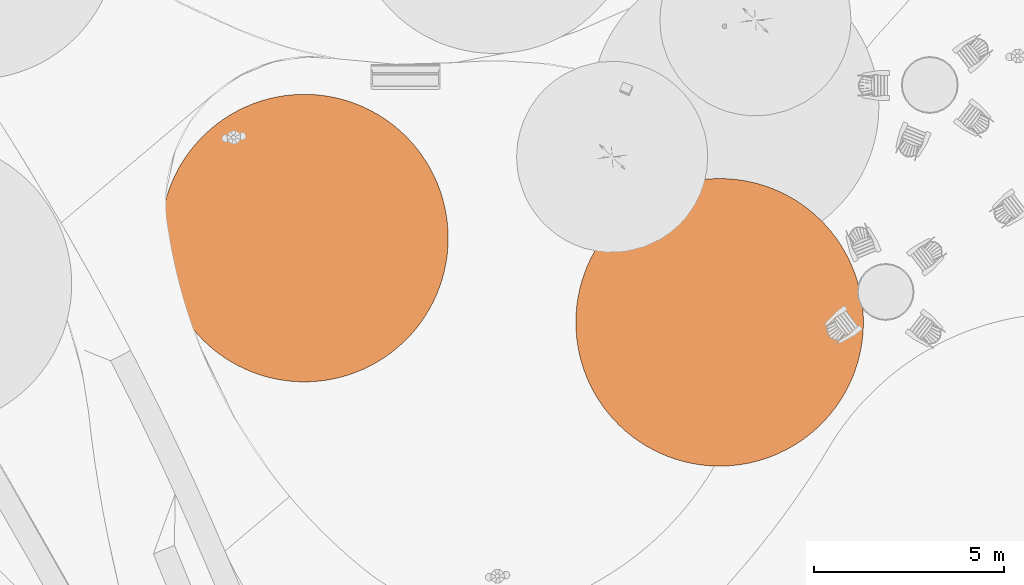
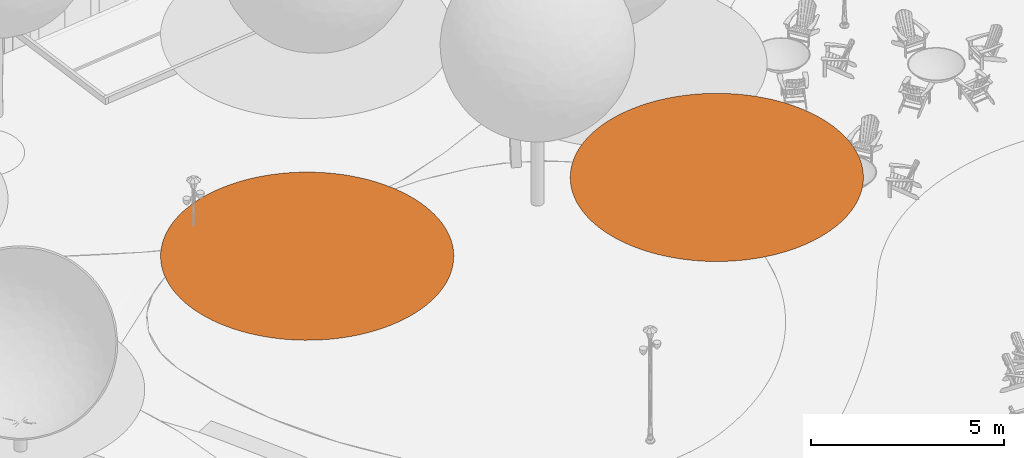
# One storey, part 70 of 75: 2 proxies.
"""IFC2X3 building model written with IfcOpenShell, lengths in metres."""

from ifc_helpers import new_model, entity, si_unit, converted_unit, derived_unit, direction, frame, origin, place, context, subcontext, project, spatial, face_set, surface_model, source, transform, mapped, material, type_object, type_shapes, element, save


model = new_model("IFC2X3")

# Units and contexts
model_context = context("Model", 3, precision=1e-05, world=origin(), true_north=direction((6.123031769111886e-17, 1.0)))
body_context = subcontext(model_context, "Body", "Model", "MODEL_VIEW")
ifc_project = project(units=[si_unit("LENGTHUNIT", "METRE"), si_unit("AREAUNIT", "SQUARE_METRE"), si_unit("VOLUMEUNIT", "CUBIC_METRE"), converted_unit("PLANEANGLEUNIT", "DEGREE", entity("IfcRatioMeasure", 0.017453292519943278), si_unit("PLANEANGLEUNIT", "RADIAN"), dimensions=[0, 0, 0, 0, 0, 0, 0]), si_unit("MASSUNIT", "GRAM", prefix="KILO"), derived_unit("MASSDENSITYUNIT", [(si_unit("MASSUNIT", "GRAM", prefix="KILO"), 1), (si_unit("LENGTHUNIT", "METRE"), -3)]), derived_unit("IONCONCENTRATIONUNIT", [(si_unit("MASSUNIT", "GRAM", prefix="KILO"), 1), (si_unit("LENGTHUNIT", "METRE"), -3)]), derived_unit("MOMENTOFINERTIAUNIT", [(si_unit("LENGTHUNIT", "METRE"), 4)]), si_unit("TIMEUNIT", "SECOND"), si_unit("FREQUENCYUNIT", "HERTZ"), si_unit("THERMODYNAMICTEMPERATUREUNIT", "DEGREE_CELSIUS"), derived_unit("THERMALTRANSMITTANCEUNIT", [(si_unit("MASSUNIT", "GRAM", prefix="KILO"), 1), (si_unit("THERMODYNAMICTEMPERATUREUNIT", "KELVIN"), -1), (si_unit("TIMEUNIT", "SECOND"), -3)]), derived_unit("THERMALCONDUCTANCEUNIT", [(si_unit("MASSUNIT", "GRAM", prefix="KILO"), 1), (si_unit("THERMODYNAMICTEMPERATUREUNIT", "KELVIN"), -1), (si_unit("TIMEUNIT", "SECOND"), -3), (si_unit("LENGTHUNIT", "METRE"), 1)]), derived_unit("VOLUMETRICFLOWRATEUNIT", [(si_unit("LENGTHUNIT", "METRE"), 3), (si_unit("TIMEUNIT", "SECOND"), -1)]), derived_unit("MASSFLOWRATEUNIT", [(si_unit("MASSUNIT", "GRAM", prefix="KILO"), 1), (si_unit("TIMEUNIT", "SECOND"), -1)]), derived_unit("ROTATIONALFREQUENCYUNIT", [(si_unit("TIMEUNIT", "SECOND"), -1)]), si_unit("ELECTRICCURRENTUNIT", "AMPERE"), si_unit("ELECTRICVOLTAGEUNIT", "VOLT"), si_unit("POWERUNIT", "WATT"), si_unit("FORCEUNIT", "NEWTON", prefix="KILO"), si_unit("ILLUMINANCEUNIT", "LUX"), si_unit("LUMINOUSFLUXUNIT", "LUMEN"), si_unit("LUMINOUSINTENSITYUNIT", "CANDELA"), derived_unit("USERDEFINED", [(si_unit("MASSUNIT", "GRAM", prefix="KILO"), -1), (si_unit("LENGTHUNIT", "METRE"), -2), (si_unit("TIMEUNIT", "SECOND"), 3), (si_unit("LUMINOUSFLUXUNIT", "LUMEN"), 1)]), derived_unit("USERDEFINED", [(si_unit("MASSUNIT", "GRAM", prefix="KILO"), 1), (si_unit("TIMEUNIT", "SECOND"), -3), (si_unit("LENGTHUNIT", "METRE"), 3), (si_unit("ELECTRICCURRENTUNIT", "AMPERE"), -2)]), derived_unit("SOUNDPOWERUNIT", [(si_unit("MASSUNIT", "GRAM", prefix="KILO"), 1), (si_unit("TIMEUNIT", "SECOND"), -3), (si_unit("LENGTHUNIT", "METRE"), 2)]), derived_unit("SOUNDPRESSUREUNIT", [(si_unit("MASSUNIT", "GRAM", prefix="KILO"), 1), (si_unit("LENGTHUNIT", "METRE"), -1), (si_unit("TIMEUNIT", "SECOND"), -2)]), derived_unit("LINEARVELOCITYUNIT", [(si_unit("LENGTHUNIT", "METRE"), 1), (si_unit("TIMEUNIT", "SECOND"), -1)]), si_unit("PRESSUREUNIT", "PASCAL"), derived_unit("USERDEFINED", [(si_unit("MASSUNIT", "GRAM", prefix="KILO"), 1), (si_unit("LENGTHUNIT", "METRE"), -2), (si_unit("TIMEUNIT", "SECOND"), -2)]), derived_unit("LINEARFORCEUNIT", [(si_unit("MASSUNIT", "GRAM", prefix="KILO"), 1), (si_unit("TIMEUNIT", "SECOND"), -2)]), derived_unit("PLANARFORCEUNIT", [(si_unit("MASSUNIT", "GRAM", prefix="KILO"), 1), (si_unit("LENGTHUNIT", "METRE"), -1), (si_unit("TIMEUNIT", "SECOND"), -2)]), derived_unit("SPECIFICHEATCAPACITYUNIT", [(si_unit("THERMODYNAMICTEMPERATUREUNIT", "KELVIN"), -1), (si_unit("LENGTHUNIT", "METRE"), 2), (si_unit("TIMEUNIT", "SECOND"), -2)]), derived_unit("HEATINGVALUEUNIT", [(si_unit("LENGTHUNIT", "METRE"), 2), (si_unit("TIMEUNIT", "SECOND"), -2)]), derived_unit("VAPORPERMEABILITYUNIT", [(si_unit("LENGTHUNIT", "METRE"), -1), (si_unit("TIMEUNIT", "SECOND"), 1)]), derived_unit("DYNAMICVISCOSITYUNIT", [(si_unit("MASSUNIT", "GRAM", prefix="KILO"), 1), (si_unit("TIMEUNIT", "SECOND"), -1), (si_unit("LENGTHUNIT", "METRE"), -1)]), derived_unit("THERMALEXPANSIONCOEFFICIENTUNIT", [(si_unit("THERMODYNAMICTEMPERATUREUNIT", "KELVIN"), -1)]), derived_unit("MODULUSOFELASTICITYUNIT", [(si_unit("MASSUNIT", "GRAM", prefix="KILO"), 1), (si_unit("LENGTHUNIT", "METRE"), -1), (si_unit("TIMEUNIT", "SECOND"), -2)]), derived_unit("ISOTHERMALMOISTURECAPACITYUNIT", [(si_unit("LENGTHUNIT", "METRE"), 3), (si_unit("MASSUNIT", "GRAM", prefix="KILO"), -1)]), derived_unit("MOISTUREDIFFUSIVITYUNIT", [(si_unit("TIMEUNIT", "SECOND"), -1), (si_unit("LENGTHUNIT", "METRE"), 2)])], contexts=[model_context])

# Site, building, storey
site_placement = place(None, origin())
site = spatial("IfcSite", under=ifc_project, at=site_placement, Name="Default", CompositionType="ELEMENT")
building_placement = place(site_placement, origin())
building = spatial("IfcBuilding", under=site, at=building_placement, Name="Projeto", CompositionType="ELEMENT")
storey_placement = place(building_placement, origin())
storey = spatial("IfcBuildingStorey", under=building, at=storey_placement, Name="Nível 1", CompositionType="ELEMENT", Elevation=0.0)

# Proxies
ifc_material = material(Name="<Unnamed>")
building_element_proxy_type = type_object("IfcBuildingElementProxyType", Name="Arvore simplificada:Arvore simplificada", PredefinedType="NOTDEFINED", material=ifc_material)
shared_shape = source(origin(), body_context, "Body", "SurfaceModel", [
    surface_model("IfcFaceBasedSurfaceModel", [(-3.9544974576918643, -0.18317979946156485, 0.0), (-3.9483138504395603, -0.3996342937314, 0.0), (-3.929783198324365, -0.6153827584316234, 0.0), (-3.8989659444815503, -0.8297214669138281, 0.0), (-3.855962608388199, -1.0419512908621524, 0.0), (-3.8009134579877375, -1.2513799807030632, 0.0), (-3.733998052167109, -1.4573244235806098, 0.0), (-3.655434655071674, -1.6591128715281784, 0.0), (-3.5654795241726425, -1.8560871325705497, 0.0), (-3.4644260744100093, -2.0476047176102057, 0.0), (-3.3526039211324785, -2.2330409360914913, 0.0), (-3.2303778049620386, -2.411790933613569, 0.0), (-3.098146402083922, -2.583271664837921, 0.0), (-2.9563410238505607, -2.7469237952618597, 0.0), (-2.8054242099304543, -2.9022135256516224, 0.0), (-2.6458882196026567, -3.048634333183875, 0.0), (-2.4782534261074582, -3.1857086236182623, 0.0), (-2.3030666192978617, -3.3129892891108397, 0.0), (-2.12089922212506, -3.430061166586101, 0.0), (-1.93234542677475, -3.5365423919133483, 0.0), (-1.7380202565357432, -3.632085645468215, 0.0), (-1.5385575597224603, -3.7163792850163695, 0.0), (-1.3346079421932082, -3.789148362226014, 0.0), (-1.1268366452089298, -3.8501555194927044, 0.0), (-0.9159213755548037, -3.8992017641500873, 0.0), (-0.7025500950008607, -3.9361271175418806, 0.0), (-0.48741877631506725, -3.9608111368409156, 0.0), (-0.2712291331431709, -3.9731733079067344, 0.0), (-0.054686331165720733, -3.9731733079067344, 0.0), (0.16150331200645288, -3.9608111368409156, 0.0), (0.3766346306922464, -3.9361271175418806, 0.0), (0.5900059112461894, -3.8992017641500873, 0.0), (0.8009211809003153, -3.8501555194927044, 0.0), (1.0086924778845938, -3.789148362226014, 0.0), (1.212642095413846, -3.7163792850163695, 0.0), (1.4121047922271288, -3.632085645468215, 0.0), (1.6064299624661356, -3.5365423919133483, 0.0), (1.7949837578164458, -3.430061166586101, 0.0), (1.9771511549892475, -3.3129892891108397, 0.0), (2.152337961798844, -3.1857086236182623, 0.0), (2.3199727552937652, -3.048634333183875, 0.0), (2.479508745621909, -2.9022135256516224, 0.0), (2.6304255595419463, -2.7469237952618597, 0.0), (2.7722309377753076, -2.583271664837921, 0.0), (2.9044623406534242, -2.411790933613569, 0.0), (3.026688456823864, -2.2330409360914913, 0.0), (3.138510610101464, -2.0476047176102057, 0.0), (3.239564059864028, -1.8560871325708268, 0.0), (3.3295191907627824, -1.6591128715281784, 0.0), (3.4080825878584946, -1.4573244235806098, 0.0), (3.474997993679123, -1.2513799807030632, 0.0), (3.5300471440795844, -1.0419512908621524, 0.0), (3.573050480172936, -0.8297214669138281, 0.0), (3.6038677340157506, -0.6153827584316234, 0.0), (3.622398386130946, -0.3996342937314, 0.0), (3.62858199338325, -0.18317979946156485, 0.0), (3.622398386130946, 0.03327469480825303, 0.0), (3.6038677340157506, 0.24902315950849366, 0.0), (3.573050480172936, 0.4633618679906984, 0.0), (3.5300471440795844, 0.6755916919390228, 0.0), (3.474997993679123, 0.8850203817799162, 0.0), (3.4080825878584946, 1.0909648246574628, 0.0), (3.3295191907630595, 1.2927532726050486, 0.0), (3.239564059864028, 1.4897275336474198, 0.0), (3.138510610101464, 1.6812451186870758, 0.0), (3.026688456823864, 1.8666813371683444, 0.0), (2.9044623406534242, 2.0454313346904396, 0.0), (2.7722309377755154, 2.2169120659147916, 0.0), (2.6304255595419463, 2.38056419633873, 0.0), (2.479508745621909, 2.535853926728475, 0.0), (2.3199727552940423, 2.682274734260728, 0.0), (2.152337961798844, 2.819349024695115, 0.0), (1.9771511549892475, 2.946629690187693, 0.0), (1.7949837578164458, 3.063701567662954, 0.0), (1.6064299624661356, 3.1701827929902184, 0.0), (1.4121047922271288, 3.265726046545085, 0.0), (1.212642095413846, 3.3500196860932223, 0.0), (1.0086924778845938, 3.422788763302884, 0.0), (0.8009211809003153, 3.4837959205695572, 0.0), (0.5900059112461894, 3.5328421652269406, 0.0), (0.3766346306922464, 3.5697675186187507, 0.0), (0.16150331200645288, 3.5944515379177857, 0.0), (-0.05468633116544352, 3.606813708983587, 0.0), (-0.27122913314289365, 3.606813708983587, 0.0), (-0.48741877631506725, 3.5944515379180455, 0.0), (-0.7025500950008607, 3.5697675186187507, 0.0), (-0.9159213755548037, 3.5328421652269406, 0.0), (-1.1268366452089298, 3.4837959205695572, 0.0), (-1.3346079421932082, 3.422788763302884, 0.0), (-1.5385575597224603, 3.3500196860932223, 0.0), (-1.7380202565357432, 3.265726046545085, 0.0), (-1.93234542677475, 3.1701827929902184, 0.0), (-2.12089922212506, 3.063701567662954, 0.0), (-2.3030666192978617, 2.946629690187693, 0.0), (-2.4782534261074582, 2.819349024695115, 0.0), (-2.6458882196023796, 2.682274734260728, 0.0), (-2.8054242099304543, 2.535853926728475, 0.0), (-2.9563410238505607, 2.38056419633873, 0.0), (-3.098146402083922, 2.2169120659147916, 0.0), (-3.2303778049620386, 2.0454313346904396, 0.0), (-3.3526039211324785, 1.8666813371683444, 0.0), (-3.4644260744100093, 1.6812451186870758, 0.0), (-3.5654795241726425, 1.4897275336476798, 0.0), (-3.6554346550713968, 1.2927532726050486, 0.0), (-3.733998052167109, 1.0909648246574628, 0.0), (-3.8009134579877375, 0.8850203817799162, 0.0), (-3.855962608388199, 0.6755916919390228, 0.0), (-3.8989659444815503, 0.4633618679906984, 0.0), (-3.929783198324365, 0.24902315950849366, 0.0), (-3.9483138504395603, 0.03327469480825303, 0.0)], [face_set([[[0, 1, 2, 3, 4, 5, 6, 7, 8, 9, 10, 11, 12, 13, 14, 15, 16, 17, 18, 19, 20, 21, 22, 23, 24, 25, 26, 27, 28, 29, 30, 31, 32, 33, 34, 35, 36, 37, 38, 39, 40, 41, 42, 43, 44, 45, 46, 47, 48, 49, 50, 51, 52, 53, 54, 55, 56, 57, 58, 59, 60, 61, 62, 63, 64, 65, 66, 67, 68, 69, 70, 71, 72, 73, 74, 75, 76, 77, 78, 79, 80, 81, 82, 83, 84, 85, 86, 87, 88, 89, 90, 91, 92, 93, 94, 95, 96, 97, 98, 99, 100, 101, 102, 103, 104, 105, 106, 107, 108, 109]]])]),
])
type_shapes(building_element_proxy_type, [shared_shape])
for number, where, z_axis, x_axis in (
    (1, (1.2854504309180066, 12.134059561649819, 0.0), (0.0, 0.0, 1.0), (0.9422539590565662, 0.3348992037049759, 0.0)),
    (2, (-9.663269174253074, 14.35524493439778, 0.0), (0.0, 0.0, 1.0), (0.9422539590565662, 0.3348992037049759, 0.0)),
):
    element("IfcBuildingElementProxy", number, at=place(storey_placement, frame(where, z_axis=z_axis, x_axis=x_axis)), inside=storey, type_object=building_element_proxy_type, material=ifc_material, Name="Arvore simplificada:Arvore simplificada", ObjectType="Arvore simplificada:Arvore simplificada", context=body_context, shape_type="MappedRepresentation", body=[
        mapped(shared_shape, transform((0.0, 0.0, 0.0), scale=1.0)),
    ])

save(model, "model.ifc")
